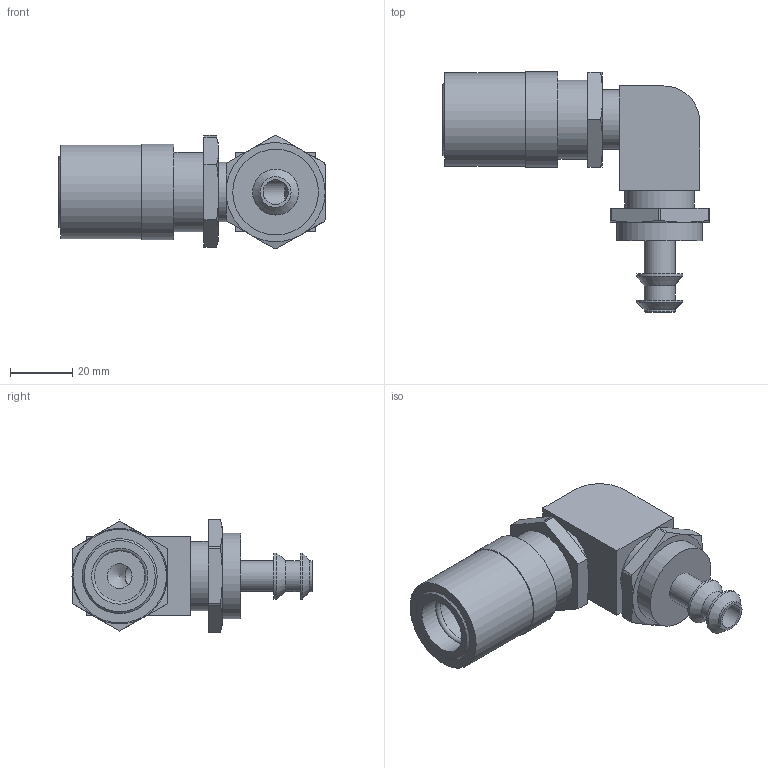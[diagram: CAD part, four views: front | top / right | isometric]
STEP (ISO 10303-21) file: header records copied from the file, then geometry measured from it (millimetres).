
FILE_DESCRIPTION(/* description */ ('STEP AP214'),/* implementation_level */ '2;1');
FILE_NAME(/* name */ 'JSL0514-V',/* time_stamp */ '2024-12-19T09:13:13+01:00',/* author */ ('License CC BY-ND 4.0'),/* organization */ ('CADENAS'),/* preprocessor_version */ 'ST-DEVELOPER v19.3',/* originating_system */ 'PARTsolutions',/* authorisation */ ' ');
FILE_SCHEMA (('AUTOMOTIVE_DESIGN {1 0 10303 214 3 1 1}'));
Length unit declared in the file: inch
Products named in the file (1): JSL0514-V
Bounding box: 85.35 x 76.88 x 36.35 mm (x, y, z)
Volume: 58432.7 mm3; surface area: 18342.4 mm2
Topology: 1 solids, 1 shells, 71 faces, 164 edges, 107 vertices
Faces by surface type: plane 35, cylinder 24, cone 11, torus 1
Full cylindrical faces by diameter (mm): 7.925 x1, 8.026 x1, 9.906 x3, 14.732 x2, 17.983 x2, 19.05 x1, 22.225 x1, 25.4 x1, 27.432 x1, 29.972 x1, 30.571 x1
Entity records: 1942 total; most frequent: CARTESIAN_POINT 415, DIRECTION 310, ORIENTED_EDGE 272, EDGE_CURVE 136, AXIS2_PLACEMENT_3D 127, FACE_BOUND 106, EDGE_LOOP 105, VERTEX_POINT 102
